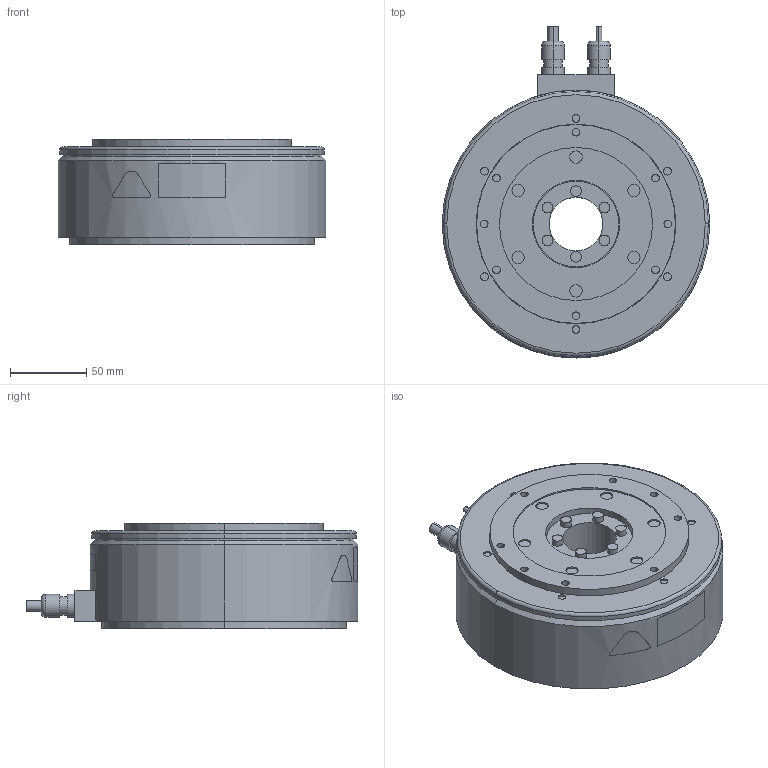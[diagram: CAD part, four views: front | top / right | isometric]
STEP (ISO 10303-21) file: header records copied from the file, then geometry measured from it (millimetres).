
FILE_DESCRIPTION (( 'STEP AP203' ), '1' );
FILE_NAME ('sgm7e_04c_a4_.STEP', '2016-05-30T07:21:51', ( '' ), ( '' ), 'SwSTEP 2.0', 'SolidWorks 2010', '' );
FILE_SCHEMA (( 'CONFIG_CONTROL_DESIGN' ));
Length unit declared in the file: millimetre
Products named in the file (1): sgm7e_04c_a4_
Bounding box: 175 x 217 x 69 mm (x, y, z)
Volume: 1514826.8 mm3; surface area: 99981.8 mm2
Topology: 1 solids, 1 shells, 192 faces, 396 edges, 260 vertices
Faces by surface type: cylinder 110, plane 67, torus 6, bspline 5, cone 4
Entity records: 5754 total; most frequent: CARTESIAN_POINT 1393, DIRECTION 996, ORIENTED_EDGE 792, AXIS2_PLACEMENT_3D 428, EDGE_CURVE 396, VERTEX_POINT 260, EDGE_LOOP 248, CIRCLE 240
